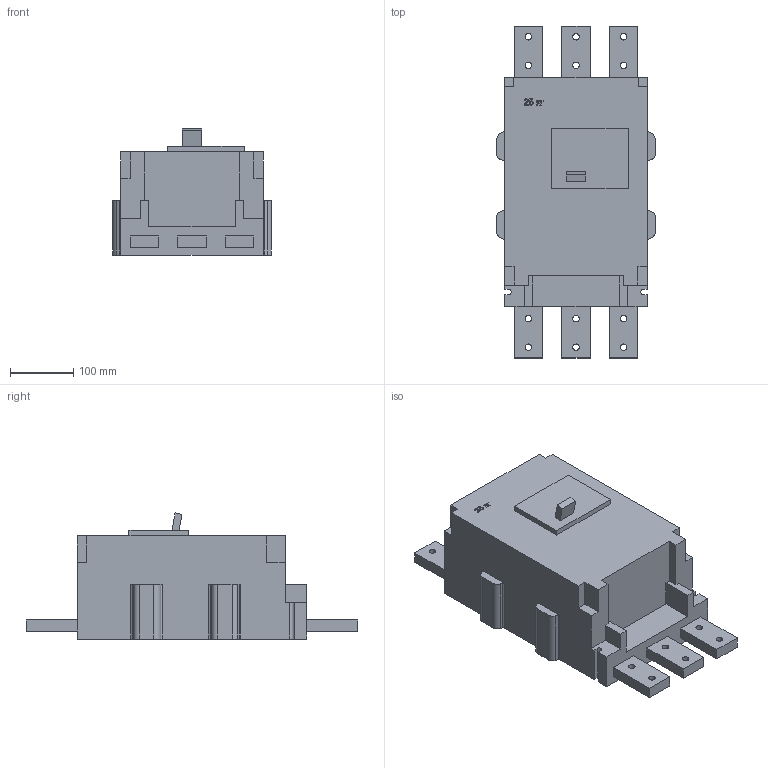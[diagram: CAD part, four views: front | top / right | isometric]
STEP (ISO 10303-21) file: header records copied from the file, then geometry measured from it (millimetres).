
FILE_DESCRIPTION (( 'STEP AP214' ), '1' );
FILE_NAME ('臍52(56)-41.STEP', '2023-02-13T06:43:23', ( 'user' ), ( '' ), 'SwSTEP 2.0', 'SolidWorks 2018', '' );
FILE_SCHEMA (( 'AUTOMOTIVE_DESIGN' ));
Length unit declared in the file: millimetre
Products named in the file (1): 臍52(56)-41
Bounding box: 250 x 523 x 198.64 mm (x, y, z)
Volume: 12729505.8 mm3; surface area: 473953.3 mm2
Topology: 5 solids, 5 shells, 154 faces, 443 edges, 313 vertices
Faces by surface type: plane 108, cylinder 46
Entity records: 5567 total; most frequent: CARTESIAN_POINT 1263, ORIENTED_EDGE 886, DIRECTION 820, EDGE_CURVE 443, VECTOR 326, LINE 326, VERTEX_POINT 313, AXIS2_PLACEMENT_3D 247
